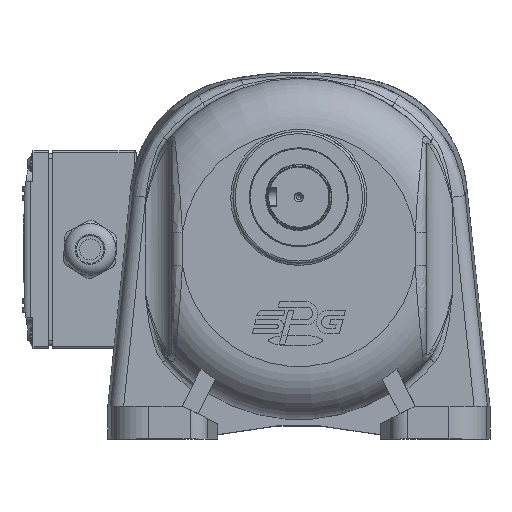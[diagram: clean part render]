
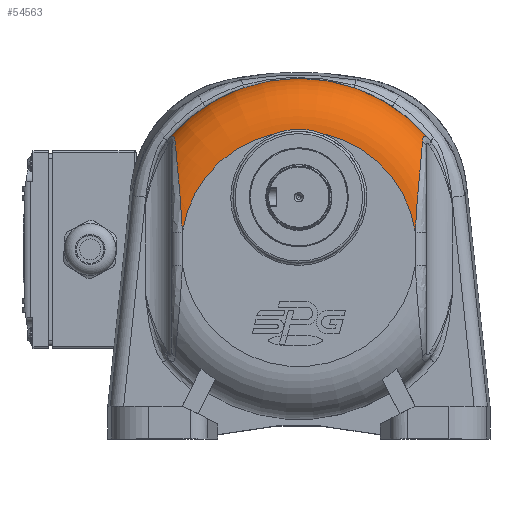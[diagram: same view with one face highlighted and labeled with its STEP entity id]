
A CAD part, top view. The second image highlights one B-rep face of the part: STEP entity #54563.
In plain terms, the highlighted toroidal (fillet/blend) face has major radius 53.545 mm and minor radius 24 mm.
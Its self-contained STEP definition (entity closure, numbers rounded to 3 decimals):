
#568=TOROIDAL_SURFACE('',#60068,53.545,24.);
#2198=B_SPLINE_CURVE_WITH_KNOTS('',3,(#122592,#122593,#122594,#122595,#122596,
#122597,#122598),.UNSPECIFIED.,.F.,.F.,(4,1,1,1,4),(-0.961,
-0.686,-0.412,-0.275,0.),
 .UNSPECIFIED.);
#2199=B_SPLINE_CURVE_WITH_KNOTS('',3,(#122600,#122601,#122602,#122603,#122604,
#122605,#122606,#122607,#122608),.UNSPECIFIED.,.F.,.F.,(4,1,1,1,1,1,4),
(-4.098,-2.927,-2.342,-1.756,
-1.171,-0.585,0.),.UNSPECIFIED.);
#2200=B_SPLINE_CURVE_WITH_KNOTS('',3,(#122612,#122613,#122614,#122615,#122616),
 .UNSPECIFIED.,.F.,.F.,(4,1,4),(-3.142,-0.449,3.142),
 .UNSPECIFIED.);
#2201=B_SPLINE_CURVE_WITH_KNOTS('',3,(#122620,#122621,#122622,#122623,#122624,
#122625,#122626,#122627,#122628),.UNSPECIFIED.,.F.,.F.,(4,1,1,1,1,1,4),
(-9.723,-9.138,-8.553,-7.967,
-7.382,-6.796,-5.626),.UNSPECIFIED.);
#2202=B_SPLINE_CURVE_WITH_KNOTS('',3,(#122629,#122630,#122631,#122632,#122633,
#122634,#122635),.UNSPECIFIED.,.F.,.F.,(4,1,1,1,4),(-0.961,
-0.686,-0.412,-0.275,0.),
 .UNSPECIFIED.);
#7912=FACE_OUTER_BOUND('',#11218,.T.);
#11218=EDGE_LOOP('',(#46652,#46653,#46654,#46655,#46656,#46657,#46658,#46659));
#14529=CIRCLE('',#60069,77.539);
#14530=CIRCLE('',#60070,53.545);
#14531=CIRCLE('',#60071,53.545);
#24530=VERTEX_POINT('',#122315);
#24557=VERTEX_POINT('',#122589);
#24558=VERTEX_POINT('',#122591);
#24559=VERTEX_POINT('',#122599);
#24560=VERTEX_POINT('',#122609);
#24561=VERTEX_POINT('',#122611);
#24562=VERTEX_POINT('',#122617);
#24563=VERTEX_POINT('',#122619);
#32055=EDGE_CURVE('',#24557,#24530,#14529,.T.);
#32056=EDGE_CURVE('',#24558,#24530,#2198,.T.);
#32057=EDGE_CURVE('',#24559,#24558,#2199,.T.);
#32058=EDGE_CURVE('',#24559,#24560,#14530,.T.);
#32059=EDGE_CURVE('',#24561,#24560,#2200,.T.);
#32060=EDGE_CURVE('',#24561,#24562,#14531,.T.);
#32061=EDGE_CURVE('',#24563,#24562,#2201,.T.);
#32062=EDGE_CURVE('',#24557,#24563,#2202,.T.);
#46652=ORIENTED_EDGE('',*,*,#32055,.T.);
#46653=ORIENTED_EDGE('',*,*,#32056,.F.);
#46654=ORIENTED_EDGE('',*,*,#32057,.F.);
#46655=ORIENTED_EDGE('',*,*,#32058,.T.);
#46656=ORIENTED_EDGE('',*,*,#32059,.F.);
#46657=ORIENTED_EDGE('',*,*,#32060,.T.);
#46658=ORIENTED_EDGE('',*,*,#32061,.F.);
#46659=ORIENTED_EDGE('',*,*,#32062,.F.);
#54563=ADVANCED_FACE('',(#7912),#568,.T.);
#60068=AXIS2_PLACEMENT_3D('',#122588,#73244,#73245);
#60069=AXIS2_PLACEMENT_3D('',#122590,#73246,#73247);
#60070=AXIS2_PLACEMENT_3D('',#122610,#73248,#73249);
#60071=AXIS2_PLACEMENT_3D('',#122618,#73250,#73251);
#73244=DIRECTION('center_axis',(0.,0.,-1.));
#73245=DIRECTION('ref_axis',(-1.,0.,0.));
#73246=DIRECTION('center_axis',(0.,0.,1.));
#73247=DIRECTION('ref_axis',(-1.,0.,0.));
#73248=DIRECTION('center_axis',(0.,0.,-1.));
#73249=DIRECTION('ref_axis',(-1.,0.,0.));
#73250=DIRECTION('center_axis',(0.,0.,-1.));
#73251=DIRECTION('ref_axis',(-1.,0.,0.));
#122315=CARTESIAN_POINT('',(-53.798,49.097,12.552));
#122588=CARTESIAN_POINT('Origin',(5.328,-1.067,12.));
#122589=CARTESIAN_POINT('',(64.454,49.097,12.552));
#122590=CARTESIAN_POINT('Origin',(5.328,-1.067,12.552));
#122591=CARTESIAN_POINT('',(-50.993,47.978,23.368));
#122592=CARTESIAN_POINT('Ctrl Pts',(-50.993,47.978,
23.368));
#122593=CARTESIAN_POINT('Ctrl Pts',(-51.051,48.644,22.474));
#122594=CARTESIAN_POINT('Ctrl Pts',(-51.251,49.812,
20.476));
#122595=CARTESIAN_POINT('Ctrl Pts',(-51.868,50.379,
17.62));
#122596=CARTESIAN_POINT('Ctrl Pts',(-52.74,50.131,
14.883));
#122597=CARTESIAN_POINT('Ctrl Pts',(-53.366,49.575,
13.422));
#122598=CARTESIAN_POINT('Ctrl Pts',(-53.798,49.097,
12.552));
#122599=CARTESIAN_POINT('',(-47.672,6.556,36.));
#122600=CARTESIAN_POINT('Ctrl Pts',(-47.672,6.556,
36.));
#122601=CARTESIAN_POINT('Ctrl Pts',(-47.817,10.48,
36.));
#122602=CARTESIAN_POINT('Ctrl Pts',(-48.193,16.435,
35.978));
#122603=CARTESIAN_POINT('Ctrl Pts',(-48.885,24.692,35.208));
#122604=CARTESIAN_POINT('Ctrl Pts',(-49.449,30.921,
34.021));
#122605=CARTESIAN_POINT('Ctrl Pts',(-50.029,37.186,
31.903));
#122606=CARTESIAN_POINT('Ctrl Pts',(-50.568,43.113,
28.572));
#122607=CARTESIAN_POINT('Ctrl Pts',(-50.87,46.557,25.275));
#122608=CARTESIAN_POINT('Ctrl Pts',(-50.993,47.978,
23.368));
#122609=CARTESIAN_POINT('',(-6.128,51.239,36.));
#122610=CARTESIAN_POINT('Origin',(5.328,-1.067,36.));
#122611=CARTESIAN_POINT('',(16.784,51.239,36.));
#122612=CARTESIAN_POINT('Ctrl Pts',(16.784,51.239,36.));
#122613=CARTESIAN_POINT('Ctrl Pts',(13.667,52.455,36.));
#122614=CARTESIAN_POINT('Ctrl Pts',(5.929,54.133,35.965));
#122615=CARTESIAN_POINT('Ctrl Pts',(-1.973,52.861,
36.));
#122616=CARTESIAN_POINT('Ctrl Pts',(-6.128,51.239,
36.));
#122617=CARTESIAN_POINT('',(58.328,6.556,36.));
#122618=CARTESIAN_POINT('Origin',(5.328,-1.067,36.));
#122619=CARTESIAN_POINT('',(61.649,47.978,23.368));
#122620=CARTESIAN_POINT('Ctrl Pts',(61.649,47.978,23.368));
#122621=CARTESIAN_POINT('Ctrl Pts',(61.526,46.557,25.275));
#122622=CARTESIAN_POINT('Ctrl Pts',(61.224,43.113,28.572));
#122623=CARTESIAN_POINT('Ctrl Pts',(60.685,37.186,31.903));
#122624=CARTESIAN_POINT('Ctrl Pts',(60.105,30.921,34.021));
#122625=CARTESIAN_POINT('Ctrl Pts',(59.541,24.692,35.208));
#122626=CARTESIAN_POINT('Ctrl Pts',(58.849,16.435,35.978));
#122627=CARTESIAN_POINT('Ctrl Pts',(58.473,10.48,36.));
#122628=CARTESIAN_POINT('Ctrl Pts',(58.328,6.556,36.));
#122629=CARTESIAN_POINT('Ctrl Pts',(64.454,49.097,12.552));
#122630=CARTESIAN_POINT('Ctrl Pts',(64.022,49.575,13.422));
#122631=CARTESIAN_POINT('Ctrl Pts',(63.178,50.331,15.383));
#122632=CARTESIAN_POINT('Ctrl Pts',(62.374,50.317,18.229));
#122633=CARTESIAN_POINT('Ctrl Pts',(61.859,49.507,20.985));
#122634=CARTESIAN_POINT('Ctrl Pts',(61.706,48.644,22.474));
#122635=CARTESIAN_POINT('Ctrl Pts',(61.649,47.978,23.368));
